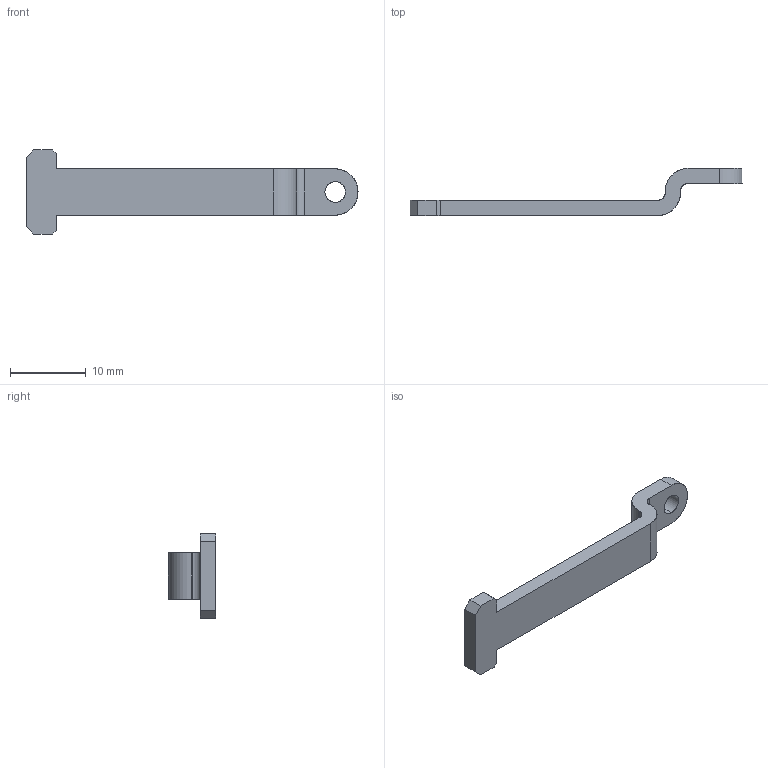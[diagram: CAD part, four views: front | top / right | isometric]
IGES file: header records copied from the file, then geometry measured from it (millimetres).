
Start section: SolidWorks IGES FILE using analytic representation for surfaces
Global section: file name: C:\Documents and Settings\lecoutey\Bureau\GP 29\29.060.10.IGS; native system: SolidWorks 2004 by SolidWorks Corporation; preprocessor: Version 5.3; author: lecoutey; date: 050329.141751; units: millimetre
Bounding box: 43.7 x 6.2 x 11.1 mm (x, y, z)
Surface area: 819.2 mm2 (no closed solid volume)
Topology: 0 solids, 0 shells, 26 faces, 288 edges, 288 vertices
Faces by surface type: bspline 18, revolution 8
